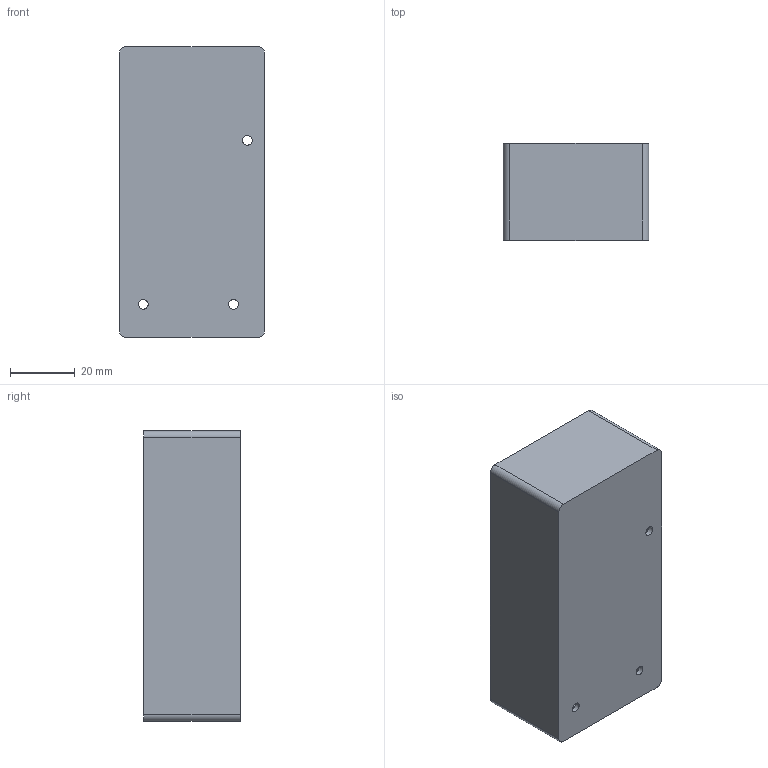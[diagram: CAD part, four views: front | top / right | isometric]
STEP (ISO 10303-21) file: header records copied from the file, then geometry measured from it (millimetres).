
FILE_DESCRIPTION(/* description */ (''),/* implementation_level */ '2;1');
FILE_NAME(/* name */ 'TFG-kike.stp',/* time_stamp */ '2023-05-19T18:33:58+02:00',/* author */ ('luisi'),/* organization */ (''),/* preprocessor_version */ 'ST-DEVELOPER v19.2',/* originating_system */ 'Autodesk Inventor 2024',/* authorisation */ '');
FILE_SCHEMA (('AUTOMOTIVE_DESIGN { 1 0 10303 214 3 1 1 }'));
Length unit declared in the file: millimetre
Products named in the file (1): TFG-kike
Bounding box: 45 x 30 x 90 mm (x, y, z)
Volume: 21180.9 mm3; surface area: 23309.4 mm2
Topology: 1 solids, 1 shells, 18 faces, 45 edges, 31 vertices
Faces by surface type: plane 11, cylinder 7
Full cylindrical faces by diameter (mm): 3 x3
Entity records: 609 total; most frequent: DIRECTION 97, CARTESIAN_POINT 95, ORIENTED_EDGE 90, EDGE_CURVE 45, AXIS2_PLACEMENT_3D 33, LINE 31, VECTOR 31, VERTEX_POINT 30
